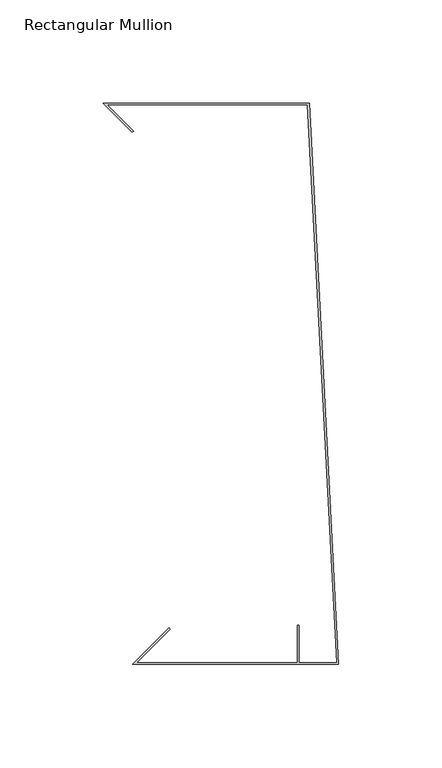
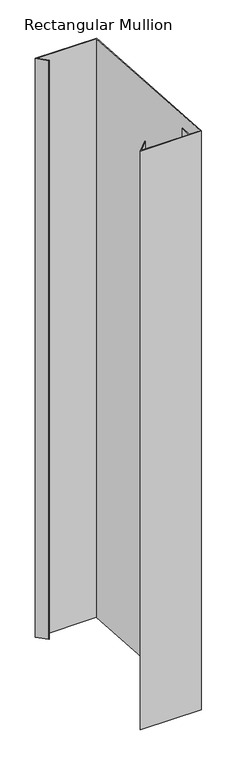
"""IFC4 building model written with IfcOpenShell, lengths in millimetres: member geometry, Rectangular Mullion : TI-V-03_01_Top parapet."""

from ifc_helpers import new_model, si_unit, frame, origin, place, context, project, spatial, polyline, outline, extrude, source, transform, mapped, element, save


def rectangular_mullion_8045d9e8(model_context):
    return source(origin(), model_context, "Body", "SweptSolid", [
        extrude(outline(polyline([(-100.0, -19.0), (-82.3223305, -1.3223305), (-81.756645, -1.8880159), (-98.0686292, -18.2), (-20.0, -18.2), (-20.0, 0.0), (-19.2, 0.0), (-19.2, -18.2), (-0.8430241, -18.2), (-15.0140876, 252.2), (-112.3235451, 252.2), (-99.5470949, 239.4235498), (-100.1127803, 238.8578644), (-114.254916, 253.0), (-14.254916, 253.0), (0.0, -19.0), (-100.0, -19.0)])), frame((0.0, 0.0, -1000.0), z_axis=(0.0, 0.0, 1.0), x_axis=(1.0, 0.0, 0.0)), (0.0, 0.0, 1.0), 1000.0),
    ])


if __name__ == "__main__":
    model = new_model("IFC4")
    model_context = context("Model", 3, world=origin())
    ifc_project = project(units=[si_unit("LENGTHUNIT", "METRE", prefix="MILLI")], contexts=[model_context])
    site = spatial("IfcSite", under=ifc_project)
    building = spatial("IfcBuilding", under=site)
    placement = place(None, origin())
    rectangular_mullion_shape = rectangular_mullion_8045d9e8(model_context)
    element("IfcMember", 1, ObjectType="Rectangular Mullion : TI-V-03_01_Top parapet", at=placement, inside=building, context=model_context, shape_type="MappedRepresentation", body=[
        mapped(rectangular_mullion_shape, transform((0.0, 0.0, 0.0), x_axis=(1.0, 0.0, 0.0), y_axis=(0.0, 1.0, 0.0), z_axis=(0.0, 0.0, 1.0))),
    ])
    save(model, "model.ifc")
